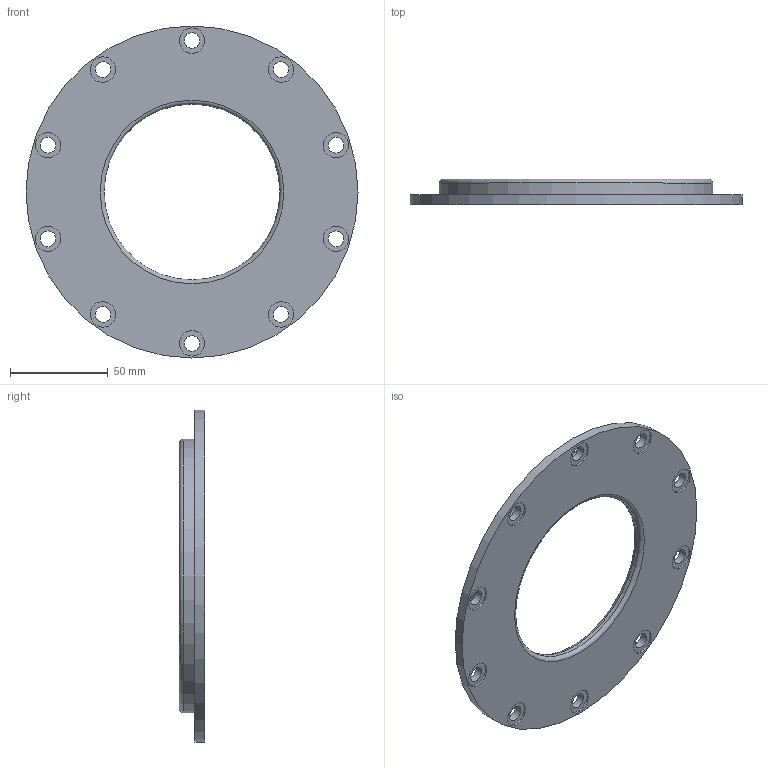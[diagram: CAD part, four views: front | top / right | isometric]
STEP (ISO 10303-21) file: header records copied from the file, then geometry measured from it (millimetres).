
FILE_DESCRIPTION(/* description */ (''),/* implementation_level */ '2;1');
FILE_NAME(/* name */ 'G:\YandexDisk\Работа\Inventor\Универ\ОАП\Лабораторные работы\ЛР6 Создание сборок\Редуктор\stp\Подшипниковый щит 6 2.stp',/* time_stamp */ '2023-11-17T06:35:48+03:00',/* author */ ('34740'),/* organization */ (''),/* preprocessor_version */ 'ST-DEVELOPER v18.1',/* originating_system */ 'Autodesk Inventor 2022',/* authorisation */ '');
FILE_SCHEMA (('AUTOMOTIVE_DESIGN { 1 0 10303 214 3 1 1 }'));
Length unit declared in the file: millimetre
Products named in the file (1): Подшипниковый 
щит 6 2
Bounding box: 170 x 13 x 170 mm (x, y, z)
Volume: 109728 mm3; surface area: 42163.3 mm2
Topology: 1 solids, 1 shells, 43 faces, 87 edges, 58 vertices
Faces by surface type: cylinder 24, plane 14, torus 5
Full cylindrical faces by diameter (mm): 8 x10, 13 x10, 90 x1, 124 x1, 140 x1, 170 x1
Entity records: 1249 total; most frequent: DIRECTION 238, CARTESIAN_POINT 189, ORIENTED_EDGE 174, AXIS2_PLACEMENT_3D 107, EDGE_CURVE 87, EDGE_LOOP 77, CIRCLE 63, VERTEX_POINT 58
